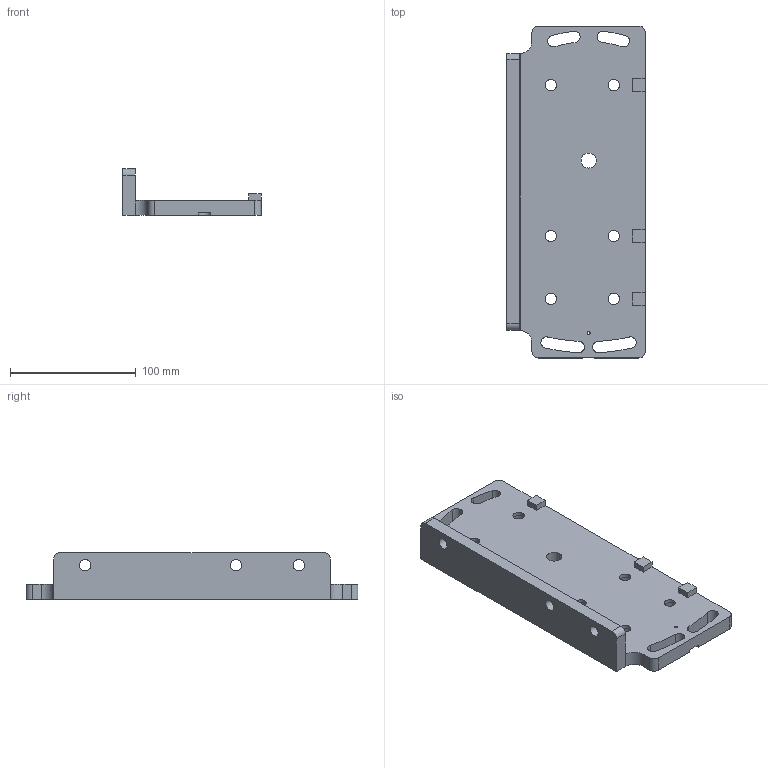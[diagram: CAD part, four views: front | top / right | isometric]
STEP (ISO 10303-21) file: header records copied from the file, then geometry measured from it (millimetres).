
FILE_DESCRIPTION(('STEP AP203'), '1');
FILE_NAME('ﾒﾏﾏﾔ1801.01.03.00.011 - ﾊ煇鳫 裘鵫', '', ('UNSPECIFIED'), ('UNSPECIFIED'), 'C3D Converter', 'C3D Toolkit', '');
FILE_SCHEMA(('CONFIG_CONTROL_DESIGN'));
Length unit declared in the file: millimetre
Products named in the file (1): ТППФ1801.01.03.00.011-01
Bounding box: 110 x 264 x 37 mm (x, y, z)
Volume: 367787 mm3; surface area: 81520.3 mm2
Topology: 1 solids, 1 shells, 79 faces, 216 edges, 143 vertices
Faces by surface type: cylinder 43, plane 35, cone 1
Full cylindrical faces by diameter (mm): 2.459 x1, 9 x9, 12 x1, 15 x6
Entity records: 3245 total; most frequent: CARTESIAN_POINT 493, DIRECTION 445, ORIENTED_EDGE 396, EDGE_CURVE 198, AXIS2_PLACEMENT_3D 169, VERTEX_POINT 143, EDGE_LOOP 131, LINE 107
